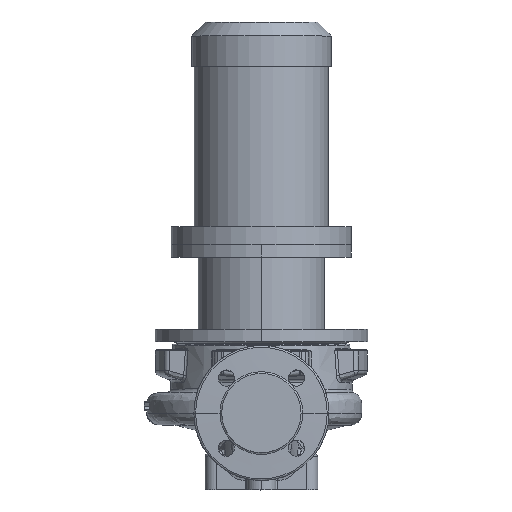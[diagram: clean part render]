
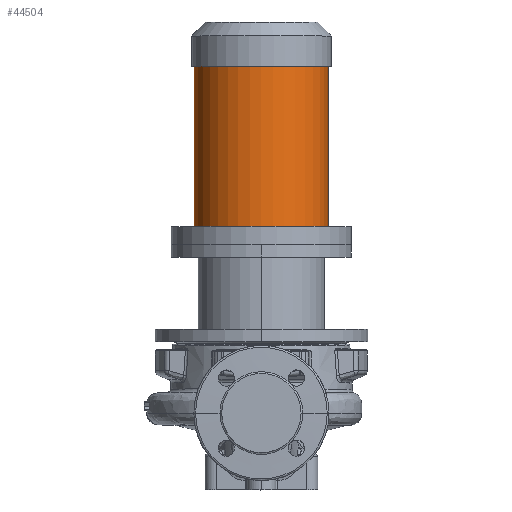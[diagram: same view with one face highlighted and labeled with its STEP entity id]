
A CAD part, top view. The second image highlights one B-rep face of the part: STEP entity #44504.
In plain terms, the highlighted cylindrical face has radius 74.5 mm (diameter 149 mm), a partial arc.
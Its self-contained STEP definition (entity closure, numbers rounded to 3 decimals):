
#1588 = ORIENTED_EDGE ( 'NONE', *, *, #54205, .T. ) ;
#5519 = EDGE_LOOP ( 'NONE', ( #73361, #68769, #1588, #83795 ) ) ;
#7071 = CARTESIAN_POINT ( 'NONE',  ( 0., 385.3, 0. ) ) ;
#7391 = CARTESIAN_POINT ( 'NONE',  ( 0., 187.3, 0. ) ) ;
#9062 = CARTESIAN_POINT ( 'NONE',  ( 74.5, 385.3, 0. ) ) ;
#13041 = EDGE_CURVE ( 'NONE', #69030, #81834, #74872, .T. ) ;
#13097 = CARTESIAN_POINT ( 'NONE',  ( 74.5, 207.3, 0. ) ) ;
#14324 = CIRCLE ( 'NONE', #51277, 74.5 ) ;
#15779 = DIRECTION ( 'NONE',  ( 0., -1., 0. ) ) ;
#20291 = VERTEX_POINT ( 'NONE', #9062 ) ;
#22119 = AXIS2_PLACEMENT_3D ( 'NONE', #7391, #59329, #79473 ) ;
#32402 = CARTESIAN_POINT ( 'NONE',  ( -74.5, 385.3, 0. ) ) ;
#36083 = CARTESIAN_POINT ( 'NONE',  ( 0., 207.3, 0. ) ) ;
#39866 = DIRECTION ( 'NONE',  ( -1., 0., 0. ) ) ;
#41181 = FACE_OUTER_BOUND ( 'NONE', #5519, .T. ) ;
#43130 = EDGE_CURVE ( 'NONE', #20291, #69030, #61963, .T. ) ;
#44504 = ADVANCED_FACE ( 'NONE', ( #41181 ), #76309, .T. ) ;
#51277 = AXIS2_PLACEMENT_3D ( 'NONE', #7071, #79439, #39866 ) ;
#54205 = EDGE_CURVE ( 'NONE', #66987, #81834, #56818, .T. ) ;
#55642 = DIRECTION ( 'NONE',  ( 0., -1., 0. ) ) ;
#55926 = CARTESIAN_POINT ( 'NONE',  ( 74.5, 187.3, 0. ) ) ;
#56818 = LINE ( 'NONE', #67468, #69155 ) ;
#58139 = AXIS2_PLACEMENT_3D ( 'NONE', #36083, #76211, #62424 ) ;
#58474 = CARTESIAN_POINT ( 'NONE',  ( -74.5, 207.3, 0. ) ) ;
#59329 = DIRECTION ( 'NONE',  ( 0., -1., 0. ) ) ;
#61963 = LINE ( 'NONE', #55926, #62995 ) ;
#62424 = DIRECTION ( 'NONE',  ( -1., 0., 0. ) ) ;
#62995 = VECTOR ( 'NONE', #55642, 1000. ) ;
#65763 = EDGE_CURVE ( 'NONE', #20291, #66987, #14324, .T. ) ;
#66987 = VERTEX_POINT ( 'NONE', #32402 ) ;
#67468 = CARTESIAN_POINT ( 'NONE',  ( -74.5, 187.3, 0. ) ) ;
#68769 = ORIENTED_EDGE ( 'NONE', *, *, #65763, .T. ) ;
#69030 = VERTEX_POINT ( 'NONE', #13097 ) ;
#69155 = VECTOR ( 'NONE', #15779, 1000. ) ;
#73361 = ORIENTED_EDGE ( 'NONE', *, *, #43130, .F. ) ;
#74872 = CIRCLE ( 'NONE', #58139, 74.5 ) ;
#76211 = DIRECTION ( 'NONE',  ( 0., -1., 0. ) ) ;
#76309 = CYLINDRICAL_SURFACE ( 'NONE', #22119, 74.5 ) ;
#79439 = DIRECTION ( 'NONE',  ( 0., -1., 0. ) ) ;
#79473 = DIRECTION ( 'NONE',  ( -1., 0., 0. ) ) ;
#81834 = VERTEX_POINT ( 'NONE', #58474 ) ;
#83795 = ORIENTED_EDGE ( 'NONE', *, *, #13041, .F. ) ;
